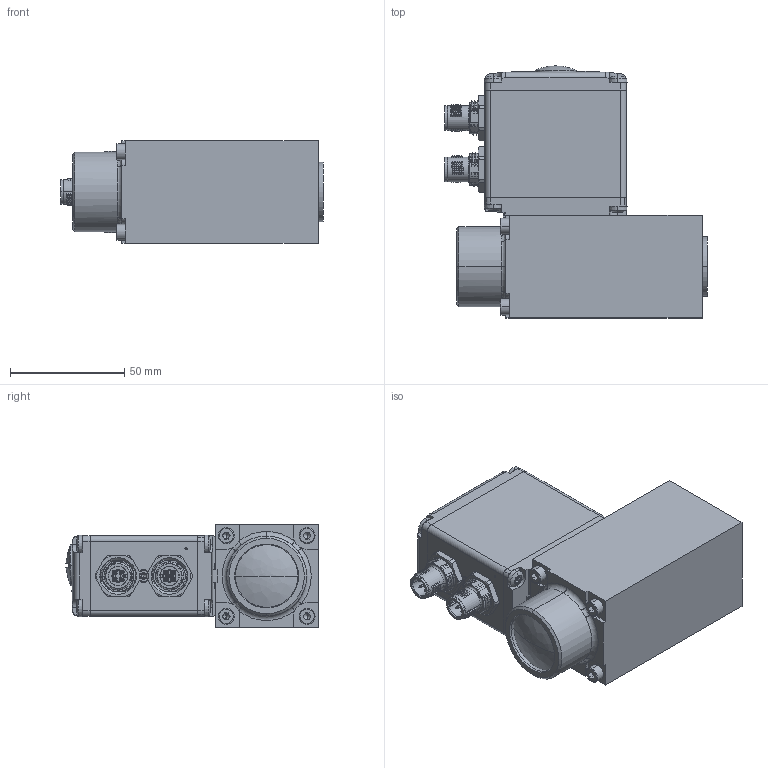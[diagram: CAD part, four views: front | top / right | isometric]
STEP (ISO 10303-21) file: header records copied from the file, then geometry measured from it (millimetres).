
FILE_DESCRIPTION (( 'STEP AP203' ), '1' );
FILE_NAME ('PI45LV-P1-24C..STEP', '2014-07-14T12:58:12', ( '' ), ( '' ), 'SwSTEP 2.0', 'SolidWorks 2014', '' );
FILE_SCHEMA (( 'CONFIG_CONTROL_DESIGN' ));
Products named in the file (2): PI45LV-P1-24C.
Bounding box: 114.9 x 110.39 x 45 mm (x, y, z)
Volume: 250271.3 mm3; surface area: 87566 mm2
Topology: 30 solids, 30 shells, 3259 faces, 8719 edges, 5611 vertices
Faces by surface type: plane 1514, cylinder 1070, torus 238, cone 215, bspline 190, sphere 32
Entity records: 128708 total; most frequent: CARTESIAN_POINT 48725, ORIENTED_EDGE 17350, DIRECTION 15731, EDGE_CURVE 8675, VERTEX_POINT 5611, AXIS2_PLACEMENT_3D 5274, VECTOR 5183, LINE 5183
